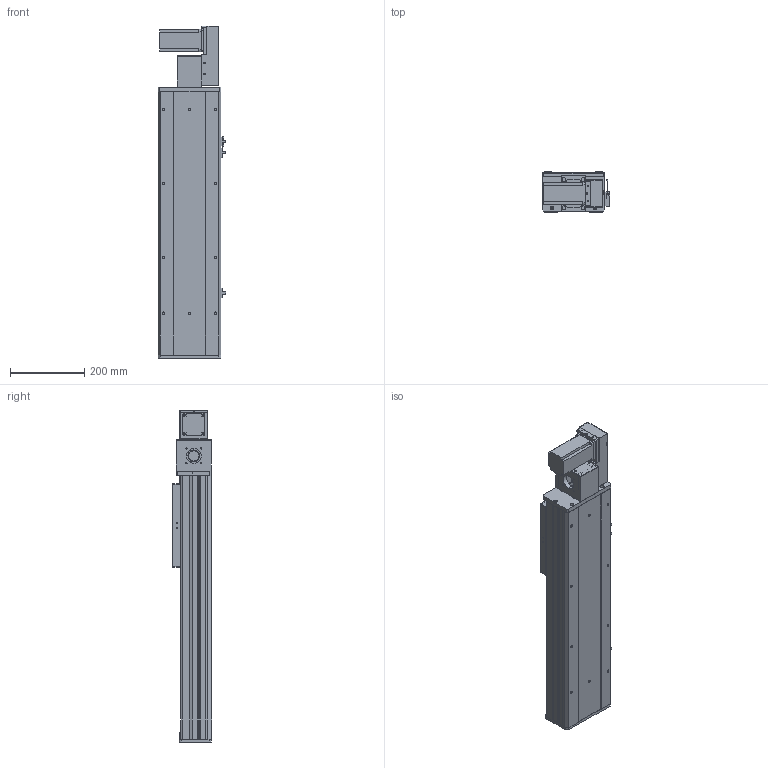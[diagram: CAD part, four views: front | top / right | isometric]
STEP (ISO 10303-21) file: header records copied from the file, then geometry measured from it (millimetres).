
FILE_DESCRIPTION (( 'STEP AP203' ), '1' );
FILE_NAME ('Y170CB-D105-S400-BR-P400W.STEP', '2020-02-19T08:42:02', ( '微软用户' ), ( '微软中国' ), 'SwSTEP 2.0', 'SolidWorks 2017', '' );
FILE_SCHEMA (( 'CONFIG_CONTROL_DESIGN' ));
Length unit declared in the file: millimetre
Products named in the file (17): 70B喘謫眊----; B-源倛裔啣; 17B-耜蚾蟀諉啣----; 0B-萇儂楊擘啣; san松下电机400不带刹车----; Y70俋欶BR----; 70CB-掛极-; --70CB --喘謫眊楊擘啣-; 70CB-耜裔啣-; 70C--詩湍揤踡え-; 70CB--耜裔; 70C-雄赽釱-奻-; 0C--雄赽釱俋欶-170; 70CB-詩湍--; Y100-135俋离換覜ん--; Y170CB-陔俋离換覜結え---; Y170CB-D105-S400-BR-P400W
Assembly tree (20 placements, depth 2):
  Y170CB-D105-S400-BR-P400W
    70B喘謫眊----
    B-源倛裔啣
    17B-耜蚾蟀諉啣----
    0B-萇儂楊擘啣
    san松下电机400不带刹车----
    Y70俋欶BR----
    70CB-掛极-
    --70CB --喘謫眊楊擘啣-
    70CB-耜裔啣-  x2
    70C--詩湍揤踡え-  x2
    70CB--耜裔
    70C-雄赽釱-奻-
    0C--雄赽釱俋欶-170
    70CB-詩湍--
    Y100-135俋离換覜ん--  x3
    Y170CB-陔俋离換覜結え---
Bounding box: 183.5 x 107 x 897 mm (x, y, z)
Volume: 4169992.6 mm3; surface area: 1473518.1 mm2
Topology: 20 solids, 20 shells, 969 faces, 2585 edges, 1714 vertices
Faces by surface type: cylinder 483, plane 462, cone 24
Entity records: 30583 total; most frequent: CARTESIAN_POINT 5601, DIRECTION 4972, ORIENTED_EDGE 4652, EDGE_CURVE 2326, AXIS2_PLACEMENT_3D 1805, VERTEX_POINT 1544, VECTOR 1362, LINE 1362
